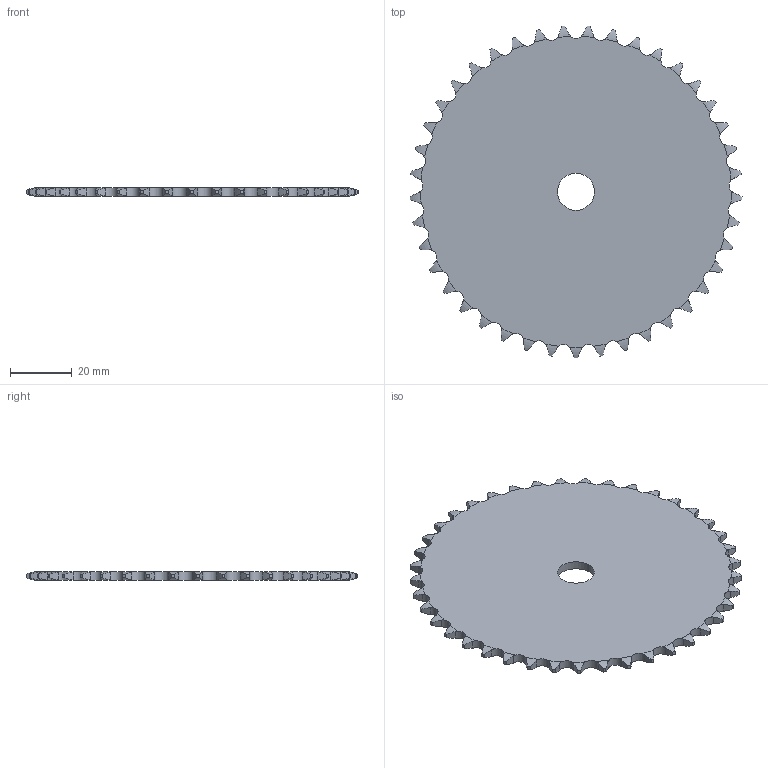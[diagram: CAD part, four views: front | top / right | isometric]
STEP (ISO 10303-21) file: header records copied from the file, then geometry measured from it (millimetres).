
FILE_DESCRIPTION((''),'2;1');
FILE_NAME('500-081-0041_PRT','2021-02-12T',('Brieden'),('Brieden'),'PRO/ENGINEER BY PARAMETRIC TECHNOLOGY CORPORATION, 2010160','PRO/ENGINEER BY PARAMETRIC TECHNOLOGY CORPORATION, 2010160','');
FILE_SCHEMA(('AUTOMOTIVE_DESIGN { 1 0 10303 214 1 1 1 1 }'));
Length unit declared in the file: millimetre
Products named in the file (1): 500-081-0041_PRT
Bounding box: 107.75 x 107.67 x 2.8 mm (x, y, z)
Volume: 22736.9 mm3; surface area: 17666.1 mm2
Topology: 1 solids, 1 shells, 250 faces, 744 edges, 496 vertices
Faces by surface type: cylinder 166, torus 82, plane 2
Entity records: 11627 total; most frequent: CARTESIAN_POINT 3012, ORIENTED_EDGE 1488, DIRECTION 1166, PRESENTATION_STYLE_ASSIGNMENT 745, STYLED_ITEM 745, CURVE_STYLE 744, EDGE_CURVE 744, AXIS2_PLACEMENT_3D 500
